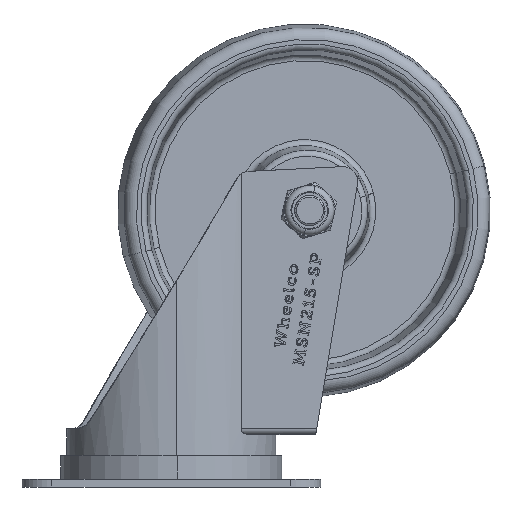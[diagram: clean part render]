
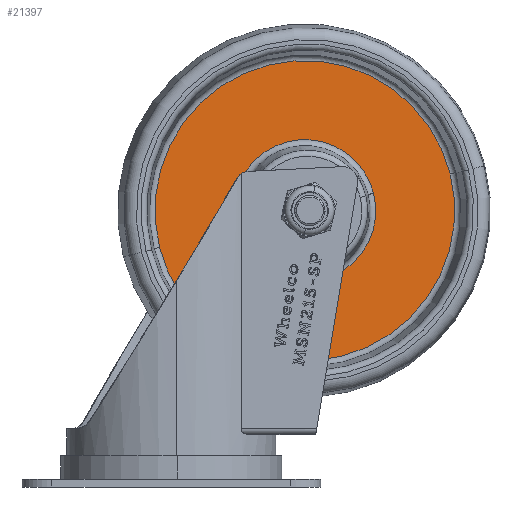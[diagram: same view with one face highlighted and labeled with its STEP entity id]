
A CAD part, top view. The second image highlights one B-rep face of the part: STEP entity #21397.
In plain terms, the highlighted planar face has unit normal (0.053, 0, 0.999) as drawn and (0, 1, 0) by its records, which use the part's own axes.
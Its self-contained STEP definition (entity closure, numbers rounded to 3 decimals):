
#2518 = CARTESIAN_POINT ( 'NONE',  ( 23.778, 5., 0. ) ) ;
#2813 = DIRECTION ( 'NONE',  ( 0., 0., 1. ) ) ;
#2886 = CARTESIAN_POINT ( 'NONE',  ( 0., 5., 0. ) ) ;
#3714 = VERTEX_POINT ( 'NONE', #17103 ) ;
#5696 = EDGE_LOOP ( 'NONE', ( #20352, #19039 ) ) ;
#7190 = ORIENTED_EDGE ( 'NONE', *, *, #25803, .T. ) ;
#7262 = CARTESIAN_POINT ( 'NONE',  ( 0., 5., 0. ) ) ;
#7441 = EDGE_LOOP ( 'NONE', ( #7190, #11048 ) ) ;
#7735 = FACE_BOUND ( 'NONE', #7441, .T. ) ;
#8865 = AXIS2_PLACEMENT_3D ( 'NONE', #2886, #28753, #28899 ) ;
#9602 = DIRECTION ( 'NONE',  ( 0., 1., 0. ) ) ;
#11048 = ORIENTED_EDGE ( 'NONE', *, *, #12494, .T. ) ;
#11059 = AXIS2_PLACEMENT_3D ( 'NONE', #7262, #16673, #26128 ) ;
#11305 = DIRECTION ( 'NONE',  ( 0., 0., -1. ) ) ;
#12274 = CIRCLE ( 'NONE', #29634, 23.778 ) ;
#12350 = CIRCLE ( 'NONE', #13839, 50.249 ) ;
#12416 = VERTEX_POINT ( 'NONE', #26861 ) ;
#12433 = DIRECTION ( 'NONE',  ( 0., -1., 0. ) ) ;
#12494 = EDGE_CURVE ( 'NONE', #3714, #18080, #12274, .T. ) ;
#12527 = EDGE_CURVE ( 'NONE', #18373, #12416, #18248, .T. ) ;
#12576 = DIRECTION ( 'NONE',  ( 0., 0., -1. ) ) ;
#13839 = AXIS2_PLACEMENT_3D ( 'NONE', #29764, #20458, #11305 ) ;
#14151 = CARTESIAN_POINT ( 'NONE',  ( 0., 5., -23.778 ) ) ;
#16673 = DIRECTION ( 'NONE',  ( 0., -1., 0. ) ) ;
#17103 = CARTESIAN_POINT ( 'NONE',  ( 0., 5., 23.778 ) ) ;
#17241 = CARTESIAN_POINT ( 'NONE',  ( 0., 5., 0. ) ) ;
#18080 = VERTEX_POINT ( 'NONE', #14151 ) ;
#18248 = CIRCLE ( 'NONE', #8865, 50.249 ) ;
#18373 = VERTEX_POINT ( 'NONE', #29100 ) ;
#18463 = CIRCLE ( 'NONE', #11059, 23.778 ) ;
#19039 = ORIENTED_EDGE ( 'NONE', *, *, #27367, .F. ) ;
#19052 = FACE_OUTER_BOUND ( 'NONE', #5696, .T. ) ;
#20352 = ORIENTED_EDGE ( 'NONE', *, *, #12527, .F. ) ;
#20458 = DIRECTION ( 'NONE',  ( 0., -1., 0. ) ) ;
#21397 = ADVANCED_FACE ( 'NONE', ( #7735, #19052 ), #26020, .T. ) ;
#25803 = EDGE_CURVE ( 'NONE', #18080, #3714, #18463, .T. ) ;
#25937 = AXIS2_PLACEMENT_3D ( 'NONE', #2518, #9602, #2813 ) ;
#26020 = PLANE ( 'NONE',  #25937 ) ;
#26128 = DIRECTION ( 'NONE',  ( 0., 0., -1. ) ) ;
#26861 = CARTESIAN_POINT ( 'NONE',  ( 0., 5., 50.249 ) ) ;
#27367 = EDGE_CURVE ( 'NONE', #12416, #18373, #12350, .T. ) ;
#28753 = DIRECTION ( 'NONE',  ( 0., -1., 0. ) ) ;
#28899 = DIRECTION ( 'NONE',  ( 0., 0., -1. ) ) ;
#29100 = CARTESIAN_POINT ( 'NONE',  ( 0., 5., -50.249 ) ) ;
#29634 = AXIS2_PLACEMENT_3D ( 'NONE', #17241, #12433, #12576 ) ;
#29764 = CARTESIAN_POINT ( 'NONE',  ( 0., 5., 0. ) ) ;
